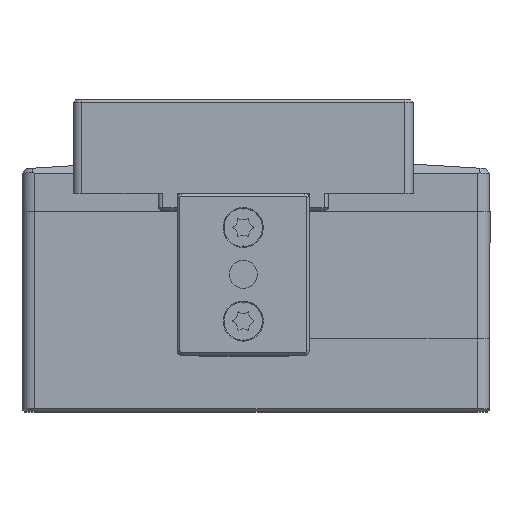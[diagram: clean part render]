
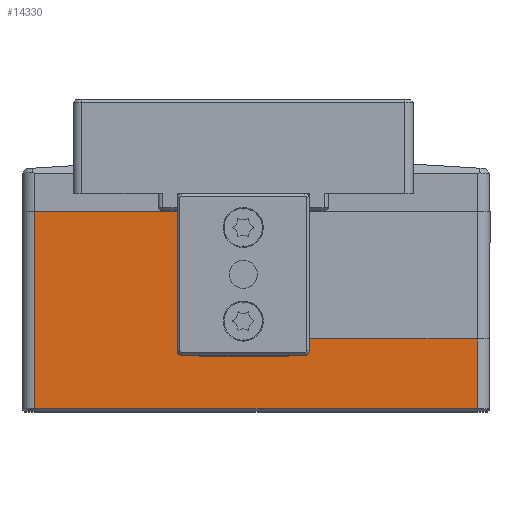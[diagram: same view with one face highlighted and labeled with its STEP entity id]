
A CAD part, top view. The second image highlights one B-rep face of the part: STEP entity #14330.
In plain terms, the highlighted planar face has unit normal (0, 0, 1).
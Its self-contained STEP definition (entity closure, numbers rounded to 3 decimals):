
#355 = CARTESIAN_POINT ( 'NONE',  ( -26., 6.5, 27.5 ) ) ;
#957 = CARTESIAN_POINT ( 'NONE',  ( -6.6, 6.5, 27.5 ) ) ;
#1273 = EDGE_LOOP ( 'NONE', ( #9286, #9758, #10230, #21415, #27533, #19969, #7723, #5789 ) ) ;
#1407 = DIRECTION ( 'NONE',  ( 1., 0., 0. ) ) ;
#2103 = CARTESIAN_POINT ( 'NONE',  ( -26., 0.3, 27.5 ) ) ;
#2978 = DIRECTION ( 'NONE',  ( 0., 0., 1. ) ) ;
#3207 = VECTOR ( 'NONE', #16218, 1000. ) ;
#3237 = EDGE_CURVE ( 'NONE', #12798, #4859, #30389, .T. ) ;
#4321 = EDGE_CURVE ( 'NONE', #34004, #19313, #25696, .T. ) ;
#4448 = DIRECTION ( 'NONE',  ( 1., 0., 0. ) ) ;
#4563 = CARTESIAN_POINT ( 'NONE',  ( 27.5, 0.3, 27.5 ) ) ;
#4859 = VERTEX_POINT ( 'NONE', #8325 ) ;
#4902 = EDGE_CURVE ( 'NONE', #34004, #14246, #25951, .T. ) ;
#4928 = VECTOR ( 'NONE', #19289, 1000. ) ;
#5137 = CARTESIAN_POINT ( 'NONE',  ( 3.8, 6.5, 27.5 ) ) ;
#5789 = ORIENTED_EDGE ( 'NONE', *, *, #20217, .T. ) ;
#5893 = VECTOR ( 'NONE', #31264, 1000. ) ;
#7083 = CARTESIAN_POINT ( 'NONE',  ( 26., 8.5, 27.5 ) ) ;
#7723 = ORIENTED_EDGE ( 'NONE', *, *, #3237, .T. ) ;
#8325 = CARTESIAN_POINT ( 'NONE',  ( 26., 0.3, 27.5 ) ) ;
#8970 = DIRECTION ( 'NONE',  ( 0., 1., 0. ) ) ;
#9286 = ORIENTED_EDGE ( 'NONE', *, *, #4321, .F. ) ;
#9442 = LINE ( 'NONE', #27014, #29586 ) ;
#9758 = ORIENTED_EDGE ( 'NONE', *, *, #4902, .T. ) ;
#10230 = ORIENTED_EDGE ( 'NONE', *, *, #23343, .T. ) ;
#12295 = DIRECTION ( 'NONE',  ( 1., 0., 0. ) ) ;
#12376 = VERTEX_POINT ( 'NONE', #31554 ) ;
#12798 = VERTEX_POINT ( 'NONE', #2103 ) ;
#13344 = CARTESIAN_POINT ( 'NONE',  ( 3.8, 8.5, 27.5 ) ) ;
#13944 = LINE ( 'NONE', #355, #4928 ) ;
#13949 = CARTESIAN_POINT ( 'NONE',  ( 27.5, 8.5, 27.5 ) ) ;
#14246 = VERTEX_POINT ( 'NONE', #5137 ) ;
#14330 = ADVANCED_FACE ( 'NONE', ( #17648 ), #18540, .T. ) ;
#14493 = VERTEX_POINT ( 'NONE', #16822 ) ;
#14567 = AXIS2_PLACEMENT_3D ( 'NONE', #18653, #2978, #21342 ) ;
#15430 = VERTEX_POINT ( 'NONE', #957 ) ;
#16218 = DIRECTION ( 'NONE',  ( 0., 1., 0. ) ) ;
#16822 = CARTESIAN_POINT ( 'NONE',  ( -6.6, 23.5, 27.5 ) ) ;
#17168 = LINE ( 'NONE', #19381, #27816 ) ;
#17648 = FACE_OUTER_BOUND ( 'NONE', #1273, .T. ) ;
#18540 = PLANE ( 'NONE',  #14567 ) ;
#18653 = CARTESIAN_POINT ( 'NONE',  ( 27.5, 6.5, 27.5 ) ) ;
#19289 = DIRECTION ( 'NONE',  ( 0., -1., 0. ) ) ;
#19313 = VERTEX_POINT ( 'NONE', #7083 ) ;
#19381 = CARTESIAN_POINT ( 'NONE',  ( -6.6, 6.5, 27.5 ) ) ;
#19969 = ORIENTED_EDGE ( 'NONE', *, *, #20428, .T. ) ;
#20217 = EDGE_CURVE ( 'NONE', #4859, #19313, #33035, .T. ) ;
#20428 = EDGE_CURVE ( 'NONE', #12376, #12798, #13944, .T. ) ;
#20558 = EDGE_CURVE ( 'NONE', #12376, #14493, #32271, .T. ) ;
#21342 = DIRECTION ( 'NONE',  ( 1., 0., 0. ) ) ;
#21415 = ORIENTED_EDGE ( 'NONE', *, *, #26629, .T. ) ;
#21466 = DIRECTION ( 'NONE',  ( -1., 0., 0. ) ) ;
#23343 = EDGE_CURVE ( 'NONE', #14246, #15430, #9442, .T. ) ;
#24059 = CARTESIAN_POINT ( 'NONE',  ( 3.8, 6.5, 27.5 ) ) ;
#24622 = VECTOR ( 'NONE', #12295, 1000. ) ;
#25546 = VECTOR ( 'NONE', #1407, 1000. ) ;
#25696 = LINE ( 'NONE', #13949, #25546 ) ;
#25951 = LINE ( 'NONE', #24059, #5893 ) ;
#26629 = EDGE_CURVE ( 'NONE', #15430, #14493, #17168, .T. ) ;
#26646 = CARTESIAN_POINT ( 'NONE',  ( 26., 6.5, 27.5 ) ) ;
#27014 = CARTESIAN_POINT ( 'NONE',  ( 27.5, 6.5, 27.5 ) ) ;
#27533 = ORIENTED_EDGE ( 'NONE', *, *, #20558, .F. ) ;
#27816 = VECTOR ( 'NONE', #8970, 1000. ) ;
#28045 = CARTESIAN_POINT ( 'NONE',  ( -6.3, 23.5, 27.5 ) ) ;
#29586 = VECTOR ( 'NONE', #21466, 1000. ) ;
#30389 = LINE ( 'NONE', #4563, #32015 ) ;
#31264 = DIRECTION ( 'NONE',  ( 0., -1., 0. ) ) ;
#31554 = CARTESIAN_POINT ( 'NONE',  ( -26., 23.5, 27.5 ) ) ;
#32015 = VECTOR ( 'NONE', #4448, 1000. ) ;
#32271 = LINE ( 'NONE', #28045, #24622 ) ;
#33035 = LINE ( 'NONE', #26646, #3207 ) ;
#34004 = VERTEX_POINT ( 'NONE', #13344 ) ;
